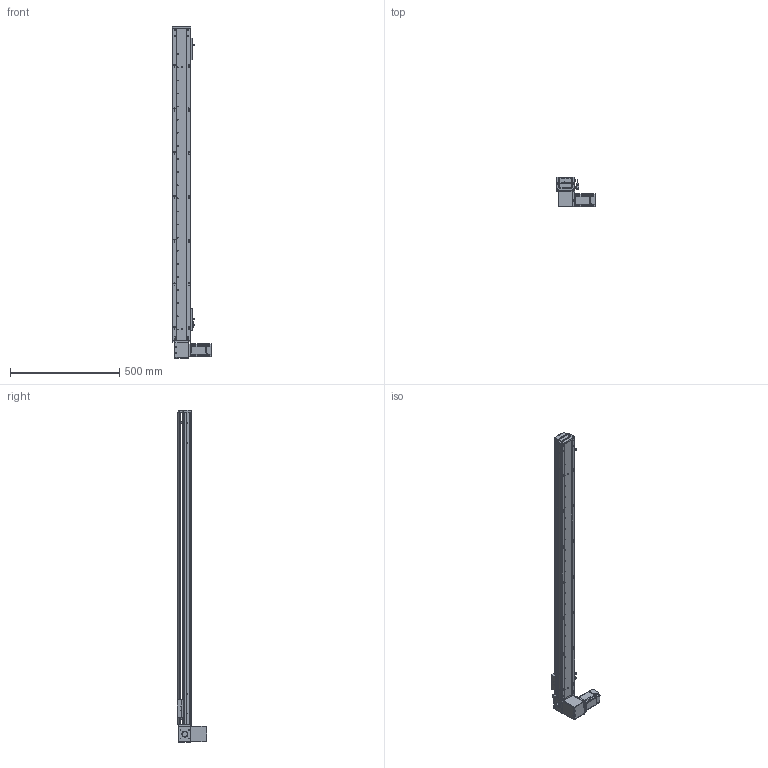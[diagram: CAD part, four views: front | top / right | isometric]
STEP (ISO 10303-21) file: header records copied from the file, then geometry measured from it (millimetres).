
FILE_DESCRIPTION (( 'STEP AP203' ), '1' );
FILE_NAME ('RY80-T-300-DR.SLDASM_1250.step', '2021-03-01T01:50:30', ( '盈信电脑' ), ( '东莞市道滘镇水果街19号' ), 'SwSTEP 2.0', 'SolidWorks 2012', '' );
FILE_SCHEMA (( 'CONFIG_CONTROL_DESIGN' ));
Length unit declared in the file: millimetre
Products named in the file (18): RY80-T-300-DR.SLDASM_1250; 1; RY80-T-M4蹟翐3; RY80-T翋肮祭謫裔啣; RY80-T肮祭謫狟殏俋欶; RY80-T-上下折同步轮盖板; RY80-T萇儂假蚾啣; RY80-T肮祭湍揤輸2; 滅袉蝶18-10; RY80-T肮祭湍揤輸1; 672嫖萇羲壽假蚾釱; RY80-T-翋肮祭謫釱; RY80俋离覜茼え; 覜茼ん672; RY80-T-300-DR倰第奻裔啣_1250; RY80-T-300-DR倰第菁釱_1250; RY80-T肮祭謫臏賑輸; RY80-T綴裔啣
Assembly tree (21 placements, depth 2):
  RY80-T-300-DR.SLDASM_1250
    RY80-T-300-DR倰第菁釱_1250
    RY80-T肮祭謫臏賑輸
    RY80-T-300-DR倰第奻裔啣_1250
    RY80-T綴裔啣
    672嫖萇羲壽假蚾釱  x2
    覜茼ん672  x3
    RY80俋离覜茼え
    RY80-T-翋肮祭謫釱
    RY80-T肮祭湍揤輸1
    RY80-T肮祭湍揤輸2
    滅袉蝶18-10  x2
    RY80-T翋肮祭謫裔啣
    RY80-T-上下折同步轮盖板
    RY80-T肮祭謫狟殏俋欶
    RY80-T萇儂假蚾啣
    1
    RY80-T-M4蹟翐3
Bounding box: 180 x 134.5 x 1520 mm (x, y, z)
Volume: 2490414.9 mm3; surface area: 1048151.4 mm2
Topology: 21 solids, 21 shells, 2428 faces, 6718 edges, 4362 vertices
Faces by surface type: plane 1307, cylinder 924, cone 141, bspline 56
Entity records: 77462 total; most frequent: CARTESIAN_POINT 18824, ORIENTED_EDGE 12080, DIRECTION 11342, EDGE_CURVE 6040, VERTEX_POINT 3966, AXIS2_PLACEMENT_3D 3808, LINE 3726, VECTOR 3726
